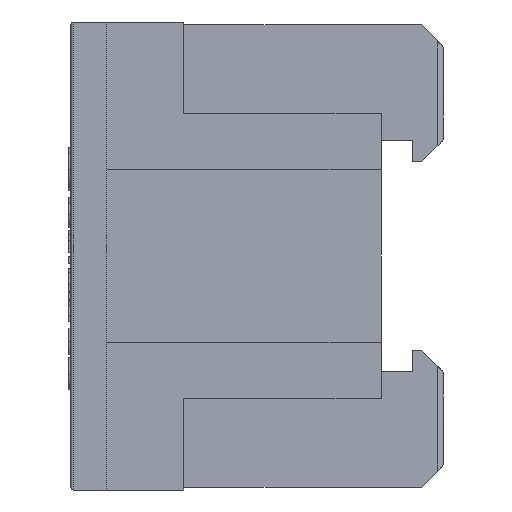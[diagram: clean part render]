
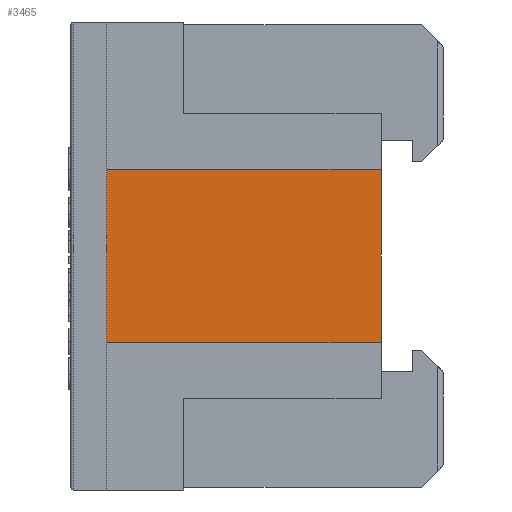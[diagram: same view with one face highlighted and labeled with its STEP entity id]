
A CAD part, left-side view. The second image highlights one B-rep face of the part: STEP entity #3465.
In plain terms, the highlighted planar face has unit normal (-1, 0, 0).
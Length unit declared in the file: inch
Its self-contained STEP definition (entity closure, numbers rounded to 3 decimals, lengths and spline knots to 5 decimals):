
#261=FACE_OUTER_BOUND('',#451,.T.);
#451=EDGE_LOOP('',(#2273,#2274,#2275,#2276));
#651=LINE('',#4478,#1021);
#660=LINE('',#4496,#1030);
#661=LINE('',#4498,#1031);
#662=LINE('',#4499,#1032);
#1021=VECTOR('',#3820,0.3937);
#1030=VECTOR('',#3833,0.3937);
#1031=VECTOR('',#3834,0.3937);
#1032=VECTOR('',#3835,0.3937);
#1391=VERTEX_POINT('',#4476);
#1392=VERTEX_POINT('',#4477);
#1399=VERTEX_POINT('',#4495);
#1400=VERTEX_POINT('',#4497);
#1739=EDGE_CURVE('',#1391,#1392,#651,.T.);
#1748=EDGE_CURVE('',#1399,#1392,#660,.T.);
#1749=EDGE_CURVE('',#1399,#1400,#661,.T.);
#1750=EDGE_CURVE('',#1400,#1391,#662,.T.);
#2273=ORIENTED_EDGE('',*,*,#1739,.T.);
#2274=ORIENTED_EDGE('',*,*,#1748,.F.);
#2275=ORIENTED_EDGE('',*,*,#1749,.T.);
#2276=ORIENTED_EDGE('',*,*,#1750,.T.);
#3313=PLANE('',#3675);
#3465=ADVANCED_FACE('',(#261),#3313,.T.);
#3675=AXIS2_PLACEMENT_3D('',#4494,#3831,#3832);
#3820=DIRECTION('',(0.,1.,0.));
#3831=DIRECTION('center_axis',(-1.,0.,0.));
#3832=DIRECTION('ref_axis',(0.,-1.,0.));
#3833=DIRECTION('',(0.,0.,1.));
#3834=DIRECTION('',(0.,-1.,0.));
#3835=DIRECTION('',(0.,0.,1.));
#4476=CARTESIAN_POINT('',(-0.07441,-0.287,0.08));
#4477=CARTESIAN_POINT('',(-0.07441,-0.033,0.08));
#4478=CARTESIAN_POINT('',(-0.07441,-0.16,0.08));
#4494=CARTESIAN_POINT('Origin',(-0.07441,-0.033,-0.21654));
#4495=CARTESIAN_POINT('',(-0.07441,-0.033,-0.08));
#4496=CARTESIAN_POINT('',(-0.07441,-0.033,-0.10827));
#4497=CARTESIAN_POINT('',(-0.07441,-0.287,-0.08));
#4498=CARTESIAN_POINT('',(-0.07441,-0.16,-0.08));
#4499=CARTESIAN_POINT('',(-0.07441,-0.287,-0.21654));
